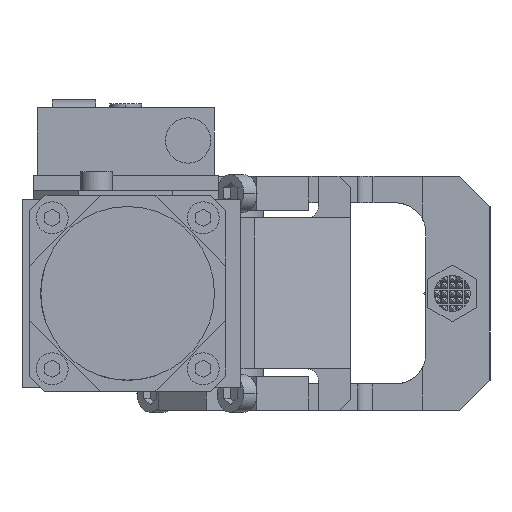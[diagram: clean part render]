
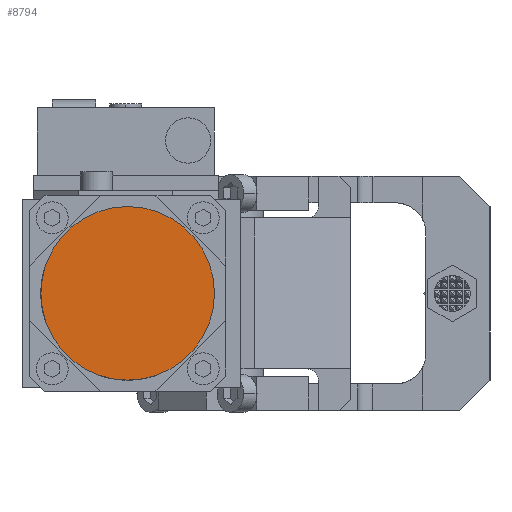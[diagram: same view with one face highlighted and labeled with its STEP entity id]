
A CAD part, front view. The second image highlights one B-rep face of the part: STEP entity #8794.
In plain terms, the highlighted planar face has unit normal (0, -1, 0) as drawn and (0, 1, 0) by its records, which use the part's own axes.
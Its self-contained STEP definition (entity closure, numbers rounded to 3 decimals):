
#1076 = EDGE_LOOP ( 'NONE', ( #16056, #7121 ) ) ;
#1696 = DIRECTION ( 'NONE',  ( 0., 1., 0. ) ) ;
#3071 = CIRCLE ( 'NONE', #10877, 23. ) ;
#3327 = FACE_OUTER_BOUND ( 'NONE', #1076, .T. ) ;
#3554 = CARTESIAN_POINT ( 'NONE',  ( 0., 113., 0. ) ) ;
#4491 = EDGE_CURVE ( 'NONE', #9462, #9260, #3071, .T. ) ;
#4905 = EDGE_CURVE ( 'NONE', #9260, #9462, #10134, .T. ) ;
#5391 = PLANE ( 'NONE',  #7096 ) ;
#6077 = DIRECTION ( 'NONE',  ( 0., 0., 1. ) ) ;
#6096 = DIRECTION ( 'NONE',  ( 0., 1., 0. ) ) ;
#6206 = CARTESIAN_POINT ( 'NONE',  ( 0., 113., 0. ) ) ;
#6952 = CARTESIAN_POINT ( 'NONE',  ( 0., 113., -23. ) ) ;
#7096 = AXIS2_PLACEMENT_3D ( 'NONE', #3554, #1696, #18209 ) ;
#7121 = ORIENTED_EDGE ( 'NONE', *, *, #4905, .T. ) ;
#8794 = ADVANCED_FACE ( 'NONE', ( #3327 ), #5391, .T. ) ;
#9260 = VERTEX_POINT ( 'NONE', #17676 ) ;
#9462 = VERTEX_POINT ( 'NONE', #6952 ) ;
#10134 = CIRCLE ( 'NONE', #14394, 23. ) ;
#10877 = AXIS2_PLACEMENT_3D ( 'NONE', #11953, #11934, #11930 ) ;
#11930 = DIRECTION ( 'NONE',  ( 0., 0., 1. ) ) ;
#11934 = DIRECTION ( 'NONE',  ( 0., 1., 0. ) ) ;
#11953 = CARTESIAN_POINT ( 'NONE',  ( 0., 113., 0. ) ) ;
#14394 = AXIS2_PLACEMENT_3D ( 'NONE', #6206, #6096, #6077 ) ;
#16056 = ORIENTED_EDGE ( 'NONE', *, *, #4491, .T. ) ;
#17676 = CARTESIAN_POINT ( 'NONE',  ( 0., 113., 23. ) ) ;
#18209 = DIRECTION ( 'NONE',  ( 0., 0., 1. ) ) ;
